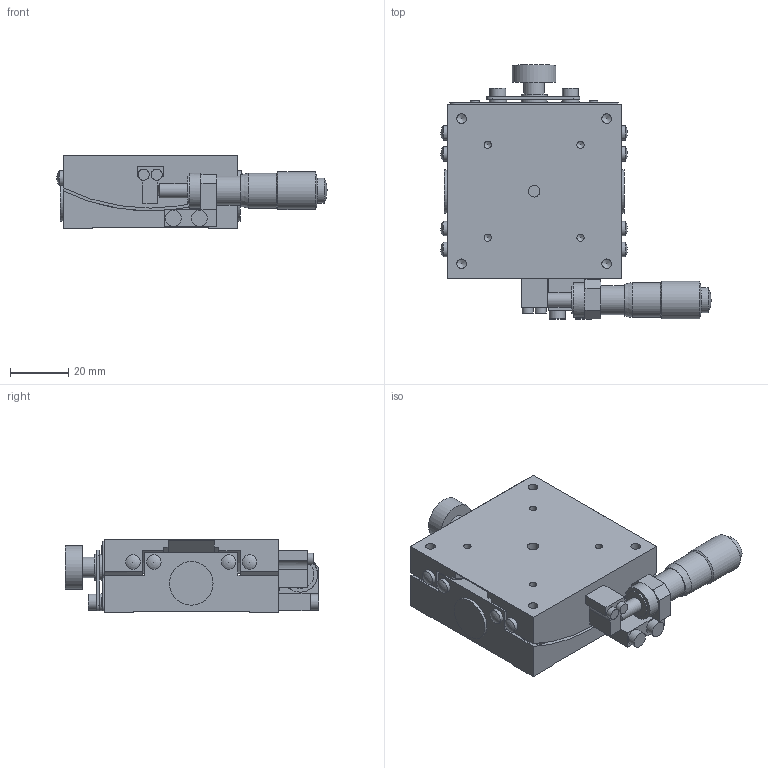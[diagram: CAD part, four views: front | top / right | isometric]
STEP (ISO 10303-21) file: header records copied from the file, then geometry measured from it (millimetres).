
FILE_DESCRIPTION( ( 'STEP AP203' ), '1' );
FILE_NAME( 'C:/Documents and Settings/09371/デスクトップ/CAD-ORG-STEP-DATA-3D簡素化依頼/3D_DATA_STEP/B58-60UC.step', '2007-02-09T01:43:57', ( ' ' ), ( ' ' ), 'XStep 1.0', ' ', ' ' );
FILE_SCHEMA( ( 'CONFIG_CONTROL_DESIGN' ) );
Length unit declared in the file: millimetre
Products named in the file (3): 1; 2; 3
Bounding box: 93.15 x 87.5 x 25 mm (x, y, z)
Volume: 90318.4 mm3; surface area: 31936.3 mm2
Topology: 3 solids, 3 shells, 219 faces, 559 edges, 367 vertices
Faces by surface type: plane 99, cylinder 98, cone 12, sphere 10
Full cylindrical faces by diameter (mm): 2.5 x8, 3 x4, 3.3 x8, 3.8 x2, 4 x3, 4.5 x4, 5 x10, 5.5 x4, 6 x2, 7 x1, 8 x4, 8.6 x1, 9 x2, 9.5 x1, 10 x1, 10.5 x1, 12 x2, 13 x1, 15 x3
Entity records: 6165 total; most frequent: CARTESIAN_POINT 1213, DIRECTION 1059, ORIENTED_EDGE 834, AXIS2_PLACEMENT_3D 424, EDGE_CURVE 417, EDGE_LOOP 340, VERTEX_POINT 318, FACE_OUTER_BOUND 281
